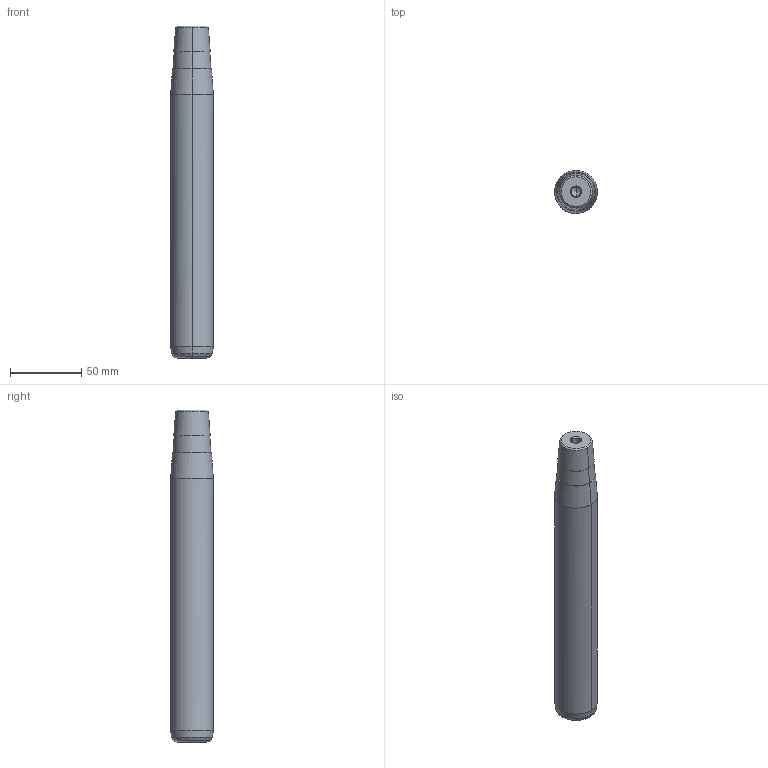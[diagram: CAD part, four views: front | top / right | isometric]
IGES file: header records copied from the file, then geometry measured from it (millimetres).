
Start section: START RECORD GO HERE.
Global section: file name: 722-30x200x233.igs; native system: DASSAULT SYSTEMES CATIA V5 R20 - www.3ds.com; preprocessor: CATIA Version 5 Release 20 ; author: Utente; organization: NB04-ASUS; date: 20210108.171752; units: millimetre
Bounding box: 30 x 30 x 233 mm (x, y, z)
Surface area: 23375.3 mm2 (no closed solid volume)
Topology: 0 solids, 0 shells, 32 faces, 192 edges, 188 vertices
Faces by surface type: revolution 30, plane 2
